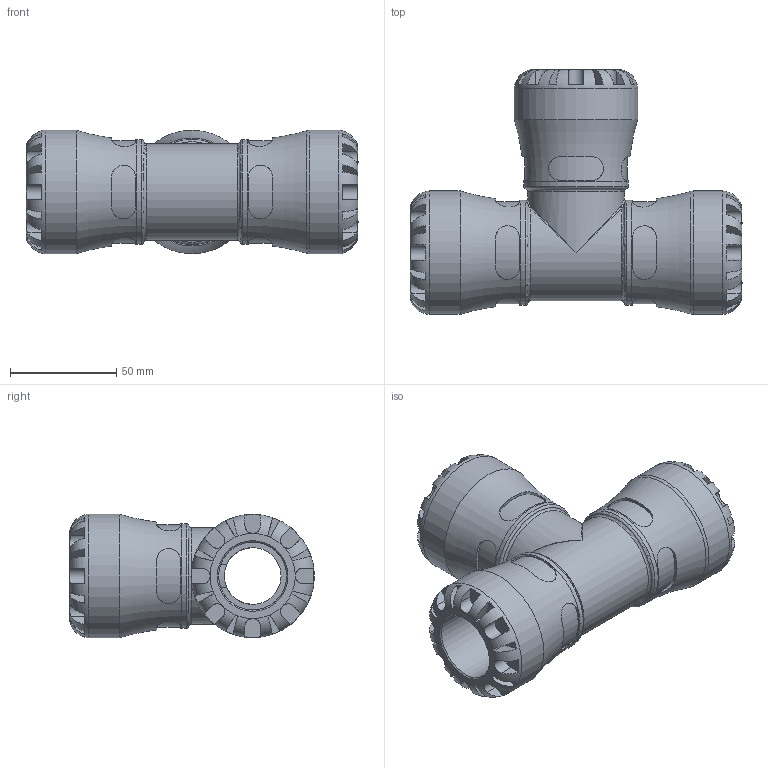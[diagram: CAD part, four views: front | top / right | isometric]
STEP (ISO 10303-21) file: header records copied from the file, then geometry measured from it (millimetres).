
FILE_DESCRIPTION(/* description */ ('PLASSON G-PLASS TEE 32X32X32'),/* implementation_level */ '2;1');
FILE_NAME(/* name */ 'C:\Dropbox\KIMPROJECTS-Inventor 2019\99-16-3568-Processing\S1\150400\stp\150400032.stp',/* time_stamp */ '2023-10-17T19:23:30+03:00',/* author */ ('KIM'),/* organization */ (''),/* preprocessor_version */ 'ST-DEVELOPER v17.2',/* originating_system */ 'Autodesk Inventor 2019',/* authorisation */ '');
FILE_SCHEMA (('AUTOMOTIVE_DESIGN { 1 0 10303 214 3 1 1 }'));
Length unit declared in the file: millimetre
Products named in the file (1): 150400032
Bounding box: 156 x 115 x 58 mm (x, y, z)
Volume: 288700.9 mm3; surface area: 66680.3 mm2
Topology: 1 solids, 1 shells, 298 faces, 795 edges, 505 vertices
Faces by surface type: plane 174, cylinder 99, torus 13, bspline 10, cone 2
Full cylindrical faces by diameter (mm): 26.667 x2, 32 x3, 45.24 x1, 49.3 x3, 58 x3
Entity records: 12622 total; most frequent: CARTESIAN_POINT 5124, ORIENTED_EDGE 1582, DIRECTION 1484, EDGE_CURVE 791, AXIS2_PLACEMENT_3D 613, VERTEX_POINT 505, CIRCLE 313, EDGE_LOOP 312
